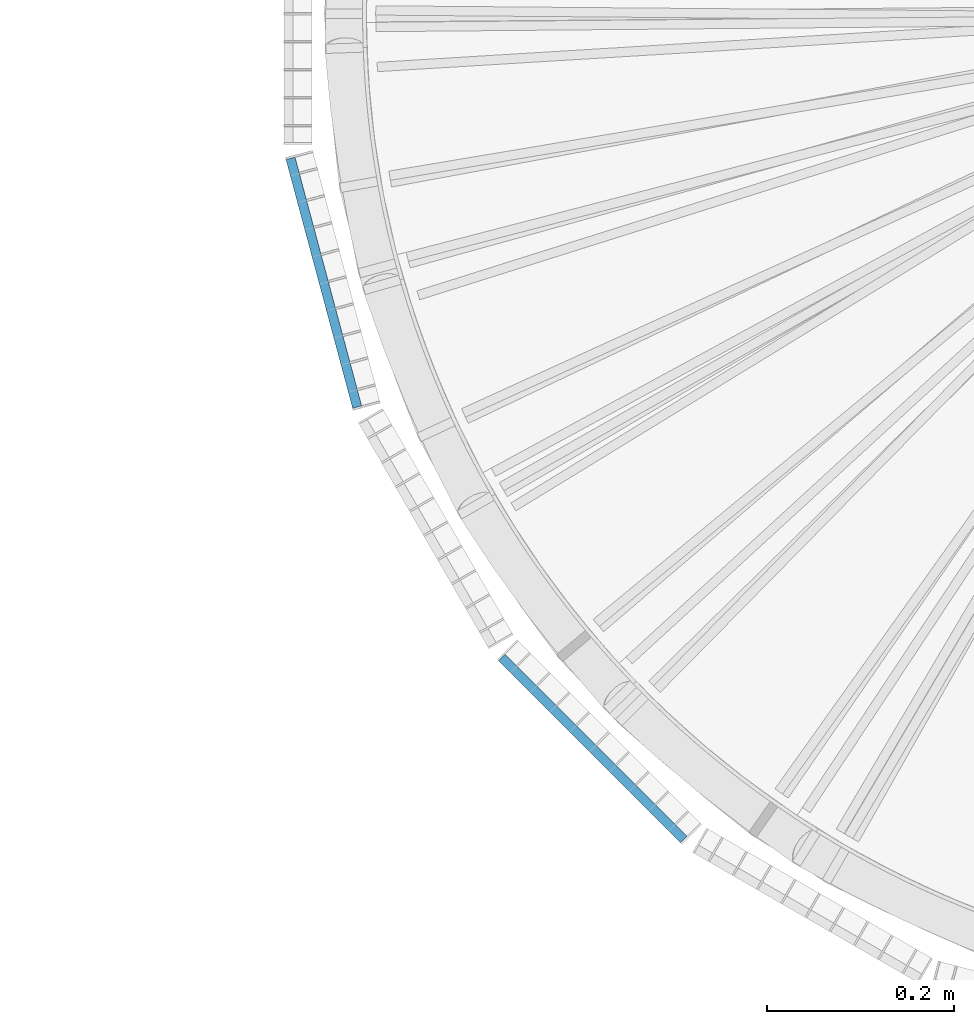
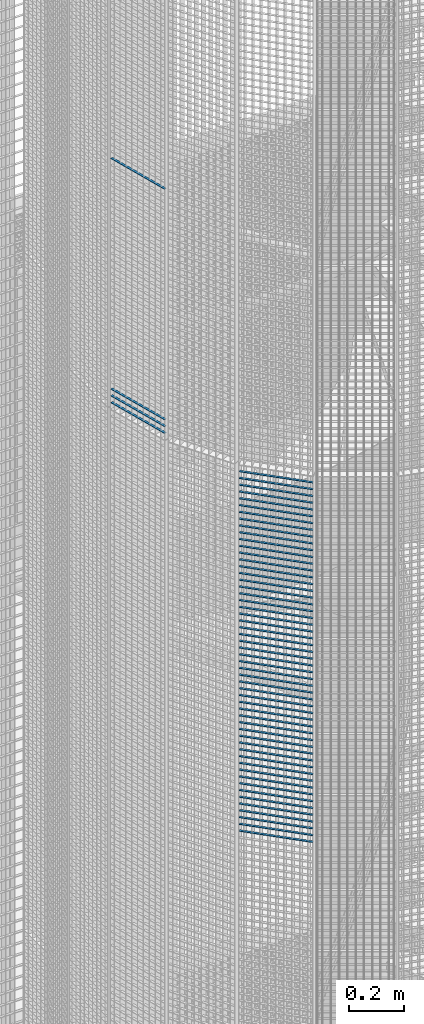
# One storey, part 109 of 1183: 58 beams, 2 elements without a shape of their own.
"""IFC2X3 building model written with IfcOpenShell, lengths in millimetres."""

from ifc_helpers import new_model, si_unit, frame, origin_with_axes, origin_2d_with_axis, place, context, subcontext, project, spatial, rectangle, extrude, material, type_object, element, aggregate, save


model = new_model("IFC2X3")

# Units and contexts
model_context = context("Model", 3, precision=1e-05, world=origin_with_axes())
body_context = subcontext(model_context, "Body", "Model", "MODEL_VIEW")
ifc_project = project(units=[si_unit("LENGTHUNIT", "METRE", prefix="MILLI"), si_unit("AREAUNIT", "SQUARE_METRE"), si_unit("VOLUMEUNIT", "CUBIC_METRE"), si_unit("MASSUNIT", "GRAM", prefix="KILO"), si_unit("TIMEUNIT", "SECOND"), si_unit("PLANEANGLEUNIT", "RADIAN"), si_unit("SOLIDANGLEUNIT", "STERADIAN"), si_unit("THERMODYNAMICTEMPERATUREUNIT", "DEGREE_CELSIUS"), si_unit("LUMINOUSINTENSITYUNIT", "LUMEN")], contexts=[model_context])

# Site, building, storey
site_placement = place(None, origin_with_axes())
site = spatial("IfcSite", under=ifc_project, at=site_placement, Name="Undefined", CompositionType="ELEMENT")
building_placement = place(site_placement, origin_with_axes())
building = spatial("IfcBuilding", under=site, at=building_placement, Name="Undefined", CompositionType="ELEMENT")
storey_placement = place(building_placement, origin_with_axes())
storey = spatial("IfcBuildingStorey", under=building, at=storey_placement, Name="Undefined", CompositionType="ELEMENT", Elevation=0.0)

# Assembly, beams
assembly_1_placement = place(storey_placement, origin_with_axes())
assembly_1 = element("IfcElementAssembly", 1, at=assembly_1_placement, inside=storey, Name="BORDURE", AssemblyPlace="NOTDEFINED", PredefinedType="NOTDEFINED")
ifc_material = material(Name="STEEL/S235JR")
beam_type = type_object("IfcBeamType", Name="PL2*10", PredefinedType="NOTDEFINED")
beam_1_placement = place(assembly_1_placement, frame((-1111.25508286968, -154.895926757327, 15090.0), z_axis=(-0.965925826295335, -0.258819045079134, 0.0), x_axis=(0.258819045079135, -0.965925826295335, 0.0)))
beam_1 = element("IfcBeam", 2, at=beam_1_placement, type_object=beam_type, material=ifc_material, Name="ENTRETOISE", context=body_context, shape_type="SweptSolid", body=[
    extrude(rectangle(XDim=2.0, YDim=10.0, at=origin_2d_with_axis()), frame((275.999999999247, 9.09494701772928e-13, 1.53210777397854e-14), z_axis=(-1.0, 0.0, 0.0), x_axis=(0.0, -1.0, 0.0)), (0.0, 0.0, 1.0), 276.0),
])
beam_2_placement = place(assembly_1_placement, frame((-1111.25508286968, -154.895926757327, 15060.0), z_axis=(-0.965925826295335, -0.258819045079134, 0.0), x_axis=(0.258819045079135, -0.965925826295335, 0.0)))
beam_2 = element("IfcBeam", 3, at=beam_2_placement, type_object=beam_type, material=ifc_material, Name="ENTRETOISE", context=body_context, shape_type="SweptSolid", body=[
    extrude(rectangle(XDim=2.0, YDim=10.0, at=origin_2d_with_axis()), frame((275.999999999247, 9.09494701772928e-13, 1.53210777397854e-14), z_axis=(-1.0, 0.0, 0.0), x_axis=(0.0, -1.0, 0.0)), (0.0, 0.0, 1.0), 276.0),
])
beam_3_placement = place(assembly_1_placement, frame((-1111.25508286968, -154.895926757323, 16110.0), z_axis=(-0.965925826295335, -0.258819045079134, 0.0), x_axis=(0.258819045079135, -0.965925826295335, 0.0)))
beam_3 = element("IfcBeam", 4, at=beam_3_placement, type_object=beam_type, material=ifc_material, Name="ENTRETOISE", context=body_context, shape_type="SweptSolid", body=[
    extrude(rectangle(XDim=2.0, YDim=10.0, at=origin_2d_with_axis()), frame((275.999999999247, 9.09494701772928e-13, 1.53210777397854e-14), z_axis=(-1.0, 0.0, 0.0), x_axis=(0.0, -1.0, 0.0)), (0.0, 0.0, 1.0), 276.0),
])
beam_4_placement = place(assembly_1_placement, frame((-1111.25508286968, -154.895926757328, 15030.0), z_axis=(-0.965925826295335, -0.258819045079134, 0.0), x_axis=(0.258819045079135, -0.965925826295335, 0.0)))
beam_4 = element("IfcBeam", 5, at=beam_4_placement, type_object=beam_type, material=ifc_material, Name="ENTRETOISE", context=body_context, shape_type="SweptSolid", body=[
    extrude(rectangle(XDim=2.0, YDim=10.0, at=origin_2d_with_axis()), frame((275.999999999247, 9.09494701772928e-13, 1.53210777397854e-14), z_axis=(-1.0, 0.0, 0.0), x_axis=(0.0, -1.0, 0.0)), (0.0, 0.0, 1.0), 276.0),
])
aggregate(assembly_1, [beam_1, beam_2, beam_3, beam_4])

assembly_2_placement = place(storey_placement, origin_with_axes())
assembly_2 = element("IfcElementAssembly", 6, at=assembly_2_placement, inside=storey, Name="BORDURE", AssemblyPlace="NOTDEFINED", PredefinedType="NOTDEFINED")
beam_5_placement = place(assembly_2_placement, frame((-884.927168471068, -689.771348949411, 14970.0), z_axis=(-0.70710678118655, -0.707106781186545, 0.0), x_axis=(0.707106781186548, -0.707106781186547, 0.0)))
beam_5 = element("IfcBeam", 7, at=beam_5_placement, type_object=beam_type, material=ifc_material, Name="ENTRETOISE", context=body_context, shape_type="SweptSolid", body=[
    extrude(rectangle(XDim=2.0, YDim=10.0, at=origin_2d_with_axis()), frame((275.999999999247, 9.09494701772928e-13, 1.53210777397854e-14), z_axis=(-1.0, 0.0, 0.0), x_axis=(0.0, -1.0, 0.0)), (0.0, 0.0, 1.0), 276.0),
])
beam_6_placement = place(assembly_2_placement, frame((-884.927168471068, -689.771348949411, 14940.0), z_axis=(-0.70710678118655, -0.707106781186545, 0.0), x_axis=(0.707106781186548, -0.707106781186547, 0.0)))
beam_6 = element("IfcBeam", 8, at=beam_6_placement, type_object=beam_type, material=ifc_material, Name="ENTRETOISE", context=body_context, shape_type="SweptSolid", body=[
    extrude(rectangle(XDim=2.0, YDim=10.0, at=origin_2d_with_axis()), frame((275.999999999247, 9.09494701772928e-13, 1.53210777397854e-14), z_axis=(-1.0, 0.0, 0.0), x_axis=(0.0, -1.0, 0.0)), (0.0, 0.0, 1.0), 276.0),
])
beam_7_placement = place(assembly_2_placement, frame((-884.927168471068, -689.771348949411, 14910.0), z_axis=(-0.70710678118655, -0.707106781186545, 0.0), x_axis=(0.707106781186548, -0.707106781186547, 0.0)))
beam_7 = element("IfcBeam", 9, at=beam_7_placement, type_object=beam_type, material=ifc_material, Name="ENTRETOISE", context=body_context, shape_type="SweptSolid", body=[
    extrude(rectangle(XDim=2.0, YDim=10.0, at=origin_2d_with_axis()), frame((275.999999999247, 9.09494701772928e-13, 1.53210777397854e-14), z_axis=(-1.0, 0.0, 0.0), x_axis=(0.0, -1.0, 0.0)), (0.0, 0.0, 1.0), 276.0),
])
beam_8_placement = place(assembly_2_placement, frame((-884.927168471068, -689.771348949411, 14880.0), z_axis=(-0.70710678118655, -0.707106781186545, 0.0), x_axis=(0.707106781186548, -0.707106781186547, 0.0)))
beam_8 = element("IfcBeam", 10, at=beam_8_placement, type_object=beam_type, material=ifc_material, Name="ENTRETOISE", context=body_context, shape_type="SweptSolid", body=[
    extrude(rectangle(XDim=2.0, YDim=10.0, at=origin_2d_with_axis()), frame((275.999999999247, 9.09494701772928e-13, 1.53210777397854e-14), z_axis=(-1.0, 0.0, 0.0), x_axis=(0.0, -1.0, 0.0)), (0.0, 0.0, 1.0), 276.0),
])
beam_9_placement = place(assembly_2_placement, frame((-884.927168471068, -689.771348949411, 14850.0), z_axis=(-0.70710678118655, -0.707106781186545, 0.0), x_axis=(0.707106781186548, -0.707106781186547, 0.0)))
beam_9 = element("IfcBeam", 11, at=beam_9_placement, type_object=beam_type, material=ifc_material, Name="ENTRETOISE", context=body_context, shape_type="SweptSolid", body=[
    extrude(rectangle(XDim=2.0, YDim=10.0, at=origin_2d_with_axis()), frame((275.999999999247, 9.09494701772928e-13, 1.53210777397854e-14), z_axis=(-1.0, 0.0, 0.0), x_axis=(0.0, -1.0, 0.0)), (0.0, 0.0, 1.0), 276.0),
])
beam_10_placement = place(assembly_2_placement, frame((-884.927168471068, -689.771348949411, 14820.0), z_axis=(-0.70710678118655, -0.707106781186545, 0.0), x_axis=(0.707106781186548, -0.707106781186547, 0.0)))
beam_10 = element("IfcBeam", 12, at=beam_10_placement, type_object=beam_type, material=ifc_material, Name="ENTRETOISE", context=body_context, shape_type="SweptSolid", body=[
    extrude(rectangle(XDim=2.0, YDim=10.0, at=origin_2d_with_axis()), frame((275.999999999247, 9.09494701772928e-13, 1.53210777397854e-14), z_axis=(-1.0, 0.0, 0.0), x_axis=(0.0, -1.0, 0.0)), (0.0, 0.0, 1.0), 276.0),
])
beam_11_placement = place(assembly_2_placement, frame((-884.927168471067, -689.771348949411, 14790.0), z_axis=(-0.70710678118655, -0.707106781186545, 0.0), x_axis=(0.707106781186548, -0.707106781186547, 0.0)))
beam_11 = element("IfcBeam", 13, at=beam_11_placement, type_object=beam_type, material=ifc_material, Name="ENTRETOISE", context=body_context, shape_type="SweptSolid", body=[
    extrude(rectangle(XDim=2.0, YDim=10.0, at=origin_2d_with_axis()), frame((275.999999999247, 9.09494701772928e-13, 1.53210777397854e-14), z_axis=(-1.0, 0.0, 0.0), x_axis=(0.0, -1.0, 0.0)), (0.0, 0.0, 1.0), 276.0),
])
beam_12_placement = place(assembly_2_placement, frame((-884.927168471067, -689.771348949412, 14760.0), z_axis=(-0.70710678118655, -0.707106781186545, 0.0), x_axis=(0.707106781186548, -0.707106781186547, 0.0)))
beam_12 = element("IfcBeam", 14, at=beam_12_placement, type_object=beam_type, material=ifc_material, Name="ENTRETOISE", context=body_context, shape_type="SweptSolid", body=[
    extrude(rectangle(XDim=2.0, YDim=10.0, at=origin_2d_with_axis()), frame((275.999999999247, 9.09494701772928e-13, 1.53210777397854e-14), z_axis=(-1.0, 0.0, 0.0), x_axis=(0.0, -1.0, 0.0)), (0.0, 0.0, 1.0), 276.0),
])
beam_13_placement = place(assembly_2_placement, frame((-884.927168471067, -689.771348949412, 14730.0), z_axis=(-0.70710678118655, -0.707106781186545, 0.0), x_axis=(0.707106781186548, -0.707106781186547, 0.0)))
beam_13 = element("IfcBeam", 15, at=beam_13_placement, type_object=beam_type, material=ifc_material, Name="ENTRETOISE", context=body_context, shape_type="SweptSolid", body=[
    extrude(rectangle(XDim=2.0, YDim=10.0, at=origin_2d_with_axis()), frame((275.999999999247, 9.09494701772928e-13, 1.53210777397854e-14), z_axis=(-1.0, 0.0, 0.0), x_axis=(0.0, -1.0, 0.0)), (0.0, 0.0, 1.0), 276.0),
])
beam_14_placement = place(assembly_2_placement, frame((-884.927168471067, -689.771348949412, 14700.0), z_axis=(-0.70710678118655, -0.707106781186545, 0.0), x_axis=(0.707106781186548, -0.707106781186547, 0.0)))
beam_14 = element("IfcBeam", 16, at=beam_14_placement, type_object=beam_type, material=ifc_material, Name="ENTRETOISE", context=body_context, shape_type="SweptSolid", body=[
    extrude(rectangle(XDim=2.0, YDim=10.0, at=origin_2d_with_axis()), frame((275.999999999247, 9.09494701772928e-13, 1.53210777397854e-14), z_axis=(-1.0, 0.0, 0.0), x_axis=(0.0, -1.0, 0.0)), (0.0, 0.0, 1.0), 276.0),
])
beam_15_placement = place(assembly_2_placement, frame((-884.927168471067, -689.771348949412, 14670.0), z_axis=(-0.70710678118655, -0.707106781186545, 0.0), x_axis=(0.707106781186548, -0.707106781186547, 0.0)))
beam_15 = element("IfcBeam", 17, at=beam_15_placement, type_object=beam_type, material=ifc_material, Name="ENTRETOISE", context=body_context, shape_type="SweptSolid", body=[
    extrude(rectangle(XDim=2.0, YDim=10.0, at=origin_2d_with_axis()), frame((275.999999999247, 9.09494701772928e-13, 1.53210777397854e-14), z_axis=(-1.0, 0.0, 0.0), x_axis=(0.0, -1.0, 0.0)), (0.0, 0.0, 1.0), 276.0),
])
beam_16_placement = place(assembly_2_placement, frame((-884.927168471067, -689.771348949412, 14640.0), z_axis=(-0.70710678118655, -0.707106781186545, 0.0), x_axis=(0.707106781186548, -0.707106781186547, 0.0)))
beam_16 = element("IfcBeam", 18, at=beam_16_placement, type_object=beam_type, material=ifc_material, Name="ENTRETOISE", context=body_context, shape_type="SweptSolid", body=[
    extrude(rectangle(XDim=2.0, YDim=10.0, at=origin_2d_with_axis()), frame((275.999999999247, 9.09494701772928e-13, 1.53210777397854e-14), z_axis=(-1.0, 0.0, 0.0), x_axis=(0.0, -1.0, 0.0)), (0.0, 0.0, 1.0), 276.0),
])
beam_17_placement = place(assembly_2_placement, frame((-884.927168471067, -689.771348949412, 14610.0), z_axis=(-0.70710678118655, -0.707106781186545, 0.0), x_axis=(0.707106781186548, -0.707106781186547, 0.0)))
beam_17 = element("IfcBeam", 19, at=beam_17_placement, type_object=beam_type, material=ifc_material, Name="ENTRETOISE", context=body_context, shape_type="SweptSolid", body=[
    extrude(rectangle(XDim=2.0, YDim=10.0, at=origin_2d_with_axis()), frame((275.999999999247, 9.09494701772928e-13, 1.53210777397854e-14), z_axis=(-1.0, 0.0, 0.0), x_axis=(0.0, -1.0, 0.0)), (0.0, 0.0, 1.0), 276.0),
])
beam_18_placement = place(assembly_2_placement, frame((-884.927168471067, -689.771348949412, 14580.0), z_axis=(-0.70710678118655, -0.707106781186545, 0.0), x_axis=(0.707106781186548, -0.707106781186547, 0.0)))
beam_18 = element("IfcBeam", 20, at=beam_18_placement, type_object=beam_type, material=ifc_material, Name="ENTRETOISE", context=body_context, shape_type="SweptSolid", body=[
    extrude(rectangle(XDim=2.0, YDim=10.0, at=origin_2d_with_axis()), frame((275.999999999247, 9.09494701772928e-13, 1.53210777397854e-14), z_axis=(-1.0, 0.0, 0.0), x_axis=(0.0, -1.0, 0.0)), (0.0, 0.0, 1.0), 276.0),
])
beam_19_placement = place(assembly_2_placement, frame((-884.927168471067, -689.771348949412, 14550.0), z_axis=(-0.70710678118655, -0.707106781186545, 0.0), x_axis=(0.707106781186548, -0.707106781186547, 0.0)))
beam_19 = element("IfcBeam", 21, at=beam_19_placement, type_object=beam_type, material=ifc_material, Name="ENTRETOISE", context=body_context, shape_type="SweptSolid", body=[
    extrude(rectangle(XDim=2.0, YDim=10.0, at=origin_2d_with_axis()), frame((275.999999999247, 9.09494701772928e-13, 1.53210777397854e-14), z_axis=(-1.0, 0.0, 0.0), x_axis=(0.0, -1.0, 0.0)), (0.0, 0.0, 1.0), 276.0),
])
beam_20_placement = place(assembly_2_placement, frame((-884.927168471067, -689.771348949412, 14520.0), z_axis=(-0.70710678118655, -0.707106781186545, 0.0), x_axis=(0.707106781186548, -0.707106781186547, 0.0)))
beam_20 = element("IfcBeam", 22, at=beam_20_placement, type_object=beam_type, material=ifc_material, Name="ENTRETOISE", context=body_context, shape_type="SweptSolid", body=[
    extrude(rectangle(XDim=2.0, YDim=10.0, at=origin_2d_with_axis()), frame((275.999999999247, 9.09494701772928e-13, 1.53210777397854e-14), z_axis=(-1.0, 0.0, 0.0), x_axis=(0.0, -1.0, 0.0)), (0.0, 0.0, 1.0), 276.0),
])
beam_21_placement = place(assembly_2_placement, frame((-884.927168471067, -689.771348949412, 14490.0), z_axis=(-0.70710678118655, -0.707106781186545, 0.0), x_axis=(0.707106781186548, -0.707106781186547, 0.0)))
beam_21 = element("IfcBeam", 23, at=beam_21_placement, type_object=beam_type, material=ifc_material, Name="ENTRETOISE", context=body_context, shape_type="SweptSolid", body=[
    extrude(rectangle(XDim=2.0, YDim=10.0, at=origin_2d_with_axis()), frame((275.999999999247, 9.09494701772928e-13, 1.53210777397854e-14), z_axis=(-1.0, 0.0, 0.0), x_axis=(0.0, -1.0, 0.0)), (0.0, 0.0, 1.0), 276.0),
])
beam_22_placement = place(assembly_2_placement, frame((-884.927168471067, -689.771348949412, 14460.0), z_axis=(-0.70710678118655, -0.707106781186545, 0.0), x_axis=(0.707106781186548, -0.707106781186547, 0.0)))
beam_22 = element("IfcBeam", 24, at=beam_22_placement, type_object=beam_type, material=ifc_material, Name="ENTRETOISE", context=body_context, shape_type="SweptSolid", body=[
    extrude(rectangle(XDim=2.0, YDim=10.0, at=origin_2d_with_axis()), frame((275.999999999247, 9.09494701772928e-13, 1.53210777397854e-14), z_axis=(-1.0, 0.0, 0.0), x_axis=(0.0, -1.0, 0.0)), (0.0, 0.0, 1.0), 276.0),
])
beam_23_placement = place(assembly_2_placement, frame((-884.927168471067, -689.771348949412, 14430.0), z_axis=(-0.70710678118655, -0.707106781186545, 0.0), x_axis=(0.707106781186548, -0.707106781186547, 0.0)))
beam_23 = element("IfcBeam", 25, at=beam_23_placement, type_object=beam_type, material=ifc_material, Name="ENTRETOISE", context=body_context, shape_type="SweptSolid", body=[
    extrude(rectangle(XDim=2.0, YDim=10.0, at=origin_2d_with_axis()), frame((275.999999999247, 9.09494701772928e-13, 1.53210777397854e-14), z_axis=(-1.0, 0.0, 0.0), x_axis=(0.0, -1.0, 0.0)), (0.0, 0.0, 1.0), 276.0),
])
beam_24_placement = place(assembly_2_placement, frame((-884.927168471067, -689.771348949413, 14400.0), z_axis=(-0.70710678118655, -0.707106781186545, 0.0), x_axis=(0.707106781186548, -0.707106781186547, 0.0)))
beam_24 = element("IfcBeam", 26, at=beam_24_placement, type_object=beam_type, material=ifc_material, Name="ENTRETOISE", context=body_context, shape_type="SweptSolid", body=[
    extrude(rectangle(XDim=2.0, YDim=10.0, at=origin_2d_with_axis()), frame((275.999999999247, 9.09494701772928e-13, 1.53210777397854e-14), z_axis=(-1.0, 0.0, 0.0), x_axis=(0.0, -1.0, 0.0)), (0.0, 0.0, 1.0), 276.0),
])
beam_25_placement = place(assembly_2_placement, frame((-884.927168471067, -689.771348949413, 14370.0), z_axis=(-0.70710678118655, -0.707106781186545, 0.0), x_axis=(0.707106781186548, -0.707106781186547, 0.0)))
beam_25 = element("IfcBeam", 27, at=beam_25_placement, type_object=beam_type, material=ifc_material, Name="ENTRETOISE", context=body_context, shape_type="SweptSolid", body=[
    extrude(rectangle(XDim=2.0, YDim=10.0, at=origin_2d_with_axis()), frame((275.999999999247, 9.09494701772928e-13, 1.53210777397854e-14), z_axis=(-1.0, 0.0, 0.0), x_axis=(0.0, -1.0, 0.0)), (0.0, 0.0, 1.0), 276.0),
])
beam_26_placement = place(assembly_2_placement, frame((-884.927168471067, -689.771348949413, 14340.0), z_axis=(-0.70710678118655, -0.707106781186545, 0.0), x_axis=(0.707106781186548, -0.707106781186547, 0.0)))
beam_26 = element("IfcBeam", 28, at=beam_26_placement, type_object=beam_type, material=ifc_material, Name="ENTRETOISE", context=body_context, shape_type="SweptSolid", body=[
    extrude(rectangle(XDim=2.0, YDim=10.0, at=origin_2d_with_axis()), frame((275.999999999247, 9.09494701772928e-13, 1.53210777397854e-14), z_axis=(-1.0, 0.0, 0.0), x_axis=(0.0, -1.0, 0.0)), (0.0, 0.0, 1.0), 276.0),
])
beam_27_placement = place(assembly_2_placement, frame((-884.927168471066, -689.771348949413, 14310.0), z_axis=(-0.70710678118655, -0.707106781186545, 0.0), x_axis=(0.707106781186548, -0.707106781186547, 0.0)))
beam_27 = element("IfcBeam", 29, at=beam_27_placement, type_object=beam_type, material=ifc_material, Name="ENTRETOISE", context=body_context, shape_type="SweptSolid", body=[
    extrude(rectangle(XDim=2.0, YDim=10.0, at=origin_2d_with_axis()), frame((275.999999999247, 9.09494701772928e-13, 1.53210777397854e-14), z_axis=(-1.0, 0.0, 0.0), x_axis=(0.0, -1.0, 0.0)), (0.0, 0.0, 1.0), 276.0),
])
beam_28_placement = place(assembly_2_placement, frame((-884.927168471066, -689.771348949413, 14280.0), z_axis=(-0.70710678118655, -0.707106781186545, 0.0), x_axis=(0.707106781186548, -0.707106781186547, 0.0)))
beam_28 = element("IfcBeam", 30, at=beam_28_placement, type_object=beam_type, material=ifc_material, Name="ENTRETOISE", context=body_context, shape_type="SweptSolid", body=[
    extrude(rectangle(XDim=2.0, YDim=10.0, at=origin_2d_with_axis()), frame((275.999999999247, 9.09494701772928e-13, 1.53210777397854e-14), z_axis=(-1.0, 0.0, 0.0), x_axis=(0.0, -1.0, 0.0)), (0.0, 0.0, 1.0), 276.0),
])
beam_29_placement = place(assembly_2_placement, frame((-884.927168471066, -689.771348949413, 14250.0), z_axis=(-0.70710678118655, -0.707106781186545, 0.0), x_axis=(0.707106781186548, -0.707106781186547, 0.0)))
beam_29 = element("IfcBeam", 31, at=beam_29_placement, type_object=beam_type, material=ifc_material, Name="ENTRETOISE", context=body_context, shape_type="SweptSolid", body=[
    extrude(rectangle(XDim=2.0, YDim=10.0, at=origin_2d_with_axis()), frame((275.999999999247, 9.09494701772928e-13, 1.53210777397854e-14), z_axis=(-1.0, 0.0, 0.0), x_axis=(0.0, -1.0, 0.0)), (0.0, 0.0, 1.0), 276.0),
])
beam_30_placement = place(assembly_2_placement, frame((-884.927168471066, -689.771348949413, 14220.0), z_axis=(-0.70710678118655, -0.707106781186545, 0.0), x_axis=(0.707106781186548, -0.707106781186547, 0.0)))
beam_30 = element("IfcBeam", 32, at=beam_30_placement, type_object=beam_type, material=ifc_material, Name="ENTRETOISE", context=body_context, shape_type="SweptSolid", body=[
    extrude(rectangle(XDim=2.0, YDim=10.0, at=origin_2d_with_axis()), frame((275.999999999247, 9.09494701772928e-13, 1.53210777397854e-14), z_axis=(-1.0, 0.0, 0.0), x_axis=(0.0, -1.0, 0.0)), (0.0, 0.0, 1.0), 276.0),
])
beam_31_placement = place(assembly_2_placement, frame((-884.927168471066, -689.771348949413, 14190.0), z_axis=(-0.70710678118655, -0.707106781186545, 0.0), x_axis=(0.707106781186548, -0.707106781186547, 0.0)))
beam_31 = element("IfcBeam", 33, at=beam_31_placement, type_object=beam_type, material=ifc_material, Name="ENTRETOISE", context=body_context, shape_type="SweptSolid", body=[
    extrude(rectangle(XDim=2.0, YDim=10.0, at=origin_2d_with_axis()), frame((275.999999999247, 9.09494701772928e-13, 1.53210777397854e-14), z_axis=(-1.0, 0.0, 0.0), x_axis=(0.0, -1.0, 0.0)), (0.0, 0.0, 1.0), 276.0),
])
beam_32_placement = place(assembly_2_placement, frame((-884.927168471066, -689.771348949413, 14160.0), z_axis=(-0.70710678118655, -0.707106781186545, 0.0), x_axis=(0.707106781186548, -0.707106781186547, 0.0)))
beam_32 = element("IfcBeam", 34, at=beam_32_placement, type_object=beam_type, material=ifc_material, Name="ENTRETOISE", context=body_context, shape_type="SweptSolid", body=[
    extrude(rectangle(XDim=2.0, YDim=10.0, at=origin_2d_with_axis()), frame((275.999999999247, 9.09494701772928e-13, 1.53210777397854e-14), z_axis=(-1.0, 0.0, 0.0), x_axis=(0.0, -1.0, 0.0)), (0.0, 0.0, 1.0), 276.0),
])
beam_33_placement = place(assembly_2_placement, frame((-884.927168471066, -689.771348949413, 14130.0), z_axis=(-0.70710678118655, -0.707106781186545, 0.0), x_axis=(0.707106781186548, -0.707106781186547, 0.0)))
beam_33 = element("IfcBeam", 35, at=beam_33_placement, type_object=beam_type, material=ifc_material, Name="ENTRETOISE", context=body_context, shape_type="SweptSolid", body=[
    extrude(rectangle(XDim=2.0, YDim=10.0, at=origin_2d_with_axis()), frame((275.999999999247, 9.09494701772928e-13, 1.53210777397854e-14), z_axis=(-1.0, 0.0, 0.0), x_axis=(0.0, -1.0, 0.0)), (0.0, 0.0, 1.0), 276.0),
])
beam_34_placement = place(assembly_2_placement, frame((-884.927168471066, -689.771348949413, 14100.0), z_axis=(-0.70710678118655, -0.707106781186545, 0.0), x_axis=(0.707106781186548, -0.707106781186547, 0.0)))
beam_34 = element("IfcBeam", 36, at=beam_34_placement, type_object=beam_type, material=ifc_material, Name="ENTRETOISE", context=body_context, shape_type="SweptSolid", body=[
    extrude(rectangle(XDim=2.0, YDim=10.0, at=origin_2d_with_axis()), frame((275.999999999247, 9.09494701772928e-13, 1.53210777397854e-14), z_axis=(-1.0, 0.0, 0.0), x_axis=(0.0, -1.0, 0.0)), (0.0, 0.0, 1.0), 276.0),
])
beam_35_placement = place(assembly_2_placement, frame((-884.927168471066, -689.771348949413, 14070.0), z_axis=(-0.70710678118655, -0.707106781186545, 0.0), x_axis=(0.707106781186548, -0.707106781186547, 0.0)))
beam_35 = element("IfcBeam", 37, at=beam_35_placement, type_object=beam_type, material=ifc_material, Name="ENTRETOISE", context=body_context, shape_type="SweptSolid", body=[
    extrude(rectangle(XDim=2.0, YDim=10.0, at=origin_2d_with_axis()), frame((275.999999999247, 9.09494701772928e-13, 1.53210777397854e-14), z_axis=(-1.0, 0.0, 0.0), x_axis=(0.0, -1.0, 0.0)), (0.0, 0.0, 1.0), 276.0),
])
beam_36_placement = place(assembly_2_placement, frame((-884.927168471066, -689.771348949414, 14040.0), z_axis=(-0.70710678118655, -0.707106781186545, 0.0), x_axis=(0.707106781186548, -0.707106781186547, 0.0)))
beam_36 = element("IfcBeam", 38, at=beam_36_placement, type_object=beam_type, material=ifc_material, Name="ENTRETOISE", context=body_context, shape_type="SweptSolid", body=[
    extrude(rectangle(XDim=2.0, YDim=10.0, at=origin_2d_with_axis()), frame((275.999999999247, 9.09494701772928e-13, 1.53210777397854e-14), z_axis=(-1.0, 0.0, 0.0), x_axis=(0.0, -1.0, 0.0)), (0.0, 0.0, 1.0), 276.0),
])
beam_37_placement = place(assembly_2_placement, frame((-884.927168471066, -689.771348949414, 14010.0), z_axis=(-0.70710678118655, -0.707106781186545, 0.0), x_axis=(0.707106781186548, -0.707106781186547, 0.0)))
beam_37 = element("IfcBeam", 39, at=beam_37_placement, type_object=beam_type, material=ifc_material, Name="ENTRETOISE", context=body_context, shape_type="SweptSolid", body=[
    extrude(rectangle(XDim=2.0, YDim=10.0, at=origin_2d_with_axis()), frame((275.999999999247, 9.09494701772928e-13, 1.53210777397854e-14), z_axis=(-1.0, 0.0, 0.0), x_axis=(0.0, -1.0, 0.0)), (0.0, 0.0, 1.0), 276.0),
])
beam_38_placement = place(assembly_2_placement, frame((-884.927168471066, -689.771348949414, 13980.0), z_axis=(-0.70710678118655, -0.707106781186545, 0.0), x_axis=(0.707106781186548, -0.707106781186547, 0.0)))
beam_38 = element("IfcBeam", 40, at=beam_38_placement, type_object=beam_type, material=ifc_material, Name="ENTRETOISE", context=body_context, shape_type="SweptSolid", body=[
    extrude(rectangle(XDim=2.0, YDim=10.0, at=origin_2d_with_axis()), frame((275.999999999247, 9.09494701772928e-13, 1.53210777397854e-14), z_axis=(-1.0, 0.0, 0.0), x_axis=(0.0, -1.0, 0.0)), (0.0, 0.0, 1.0), 276.0),
])
beam_39_placement = place(assembly_2_placement, frame((-884.927168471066, -689.771348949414, 13950.0), z_axis=(-0.70710678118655, -0.707106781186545, 0.0), x_axis=(0.707106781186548, -0.707106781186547, 0.0)))
beam_39 = element("IfcBeam", 41, at=beam_39_placement, type_object=beam_type, material=ifc_material, Name="ENTRETOISE", context=body_context, shape_type="SweptSolid", body=[
    extrude(rectangle(XDim=2.0, YDim=10.0, at=origin_2d_with_axis()), frame((275.999999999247, 9.09494701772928e-13, 1.53210777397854e-14), z_axis=(-1.0, 0.0, 0.0), x_axis=(0.0, -1.0, 0.0)), (0.0, 0.0, 1.0), 276.0),
])
beam_40_placement = place(assembly_2_placement, frame((-884.927168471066, -689.771348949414, 13920.0), z_axis=(-0.70710678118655, -0.707106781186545, 0.0), x_axis=(0.707106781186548, -0.707106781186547, 0.0)))
beam_40 = element("IfcBeam", 42, at=beam_40_placement, type_object=beam_type, material=ifc_material, Name="ENTRETOISE", context=body_context, shape_type="SweptSolid", body=[
    extrude(rectangle(XDim=2.0, YDim=10.0, at=origin_2d_with_axis()), frame((275.999999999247, 9.09494701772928e-13, 1.53210777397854e-14), z_axis=(-1.0, 0.0, 0.0), x_axis=(0.0, -1.0, 0.0)), (0.0, 0.0, 1.0), 276.0),
])
beam_41_placement = place(assembly_2_placement, frame((-884.927168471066, -689.771348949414, 13890.0), z_axis=(-0.70710678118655, -0.707106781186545, 0.0), x_axis=(0.707106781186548, -0.707106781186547, 0.0)))
beam_41 = element("IfcBeam", 43, at=beam_41_placement, type_object=beam_type, material=ifc_material, Name="ENTRETOISE", context=body_context, shape_type="SweptSolid", body=[
    extrude(rectangle(XDim=2.0, YDim=10.0, at=origin_2d_with_axis()), frame((275.999999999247, 9.09494701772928e-13, 1.53210777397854e-14), z_axis=(-1.0, 0.0, 0.0), x_axis=(0.0, -1.0, 0.0)), (0.0, 0.0, 1.0), 276.0),
])
beam_42_placement = place(assembly_2_placement, frame((-884.927168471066, -689.771348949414, 13860.0), z_axis=(-0.70710678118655, -0.707106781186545, 0.0), x_axis=(0.707106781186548, -0.707106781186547, 0.0)))
beam_42 = element("IfcBeam", 44, at=beam_42_placement, type_object=beam_type, material=ifc_material, Name="ENTRETOISE", context=body_context, shape_type="SweptSolid", body=[
    extrude(rectangle(XDim=2.0, YDim=10.0, at=origin_2d_with_axis()), frame((275.999999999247, 9.09494701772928e-13, 1.53210777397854e-14), z_axis=(-1.0, 0.0, 0.0), x_axis=(0.0, -1.0, 0.0)), (0.0, 0.0, 1.0), 276.0),
])
beam_43_placement = place(assembly_2_placement, frame((-884.927168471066, -689.771348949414, 13830.0), z_axis=(-0.70710678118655, -0.707106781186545, 0.0), x_axis=(0.707106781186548, -0.707106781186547, 0.0)))
beam_43 = element("IfcBeam", 45, at=beam_43_placement, type_object=beam_type, material=ifc_material, Name="ENTRETOISE", context=body_context, shape_type="SweptSolid", body=[
    extrude(rectangle(XDim=2.0, YDim=10.0, at=origin_2d_with_axis()), frame((275.999999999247, 9.09494701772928e-13, 1.53210777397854e-14), z_axis=(-1.0, 0.0, 0.0), x_axis=(0.0, -1.0, 0.0)), (0.0, 0.0, 1.0), 276.0),
])
beam_44_placement = place(assembly_2_placement, frame((-884.927168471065, -689.771348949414, 13800.0), z_axis=(-0.70710678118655, -0.707106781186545, 0.0), x_axis=(0.707106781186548, -0.707106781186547, 0.0)))
beam_44 = element("IfcBeam", 46, at=beam_44_placement, type_object=beam_type, material=ifc_material, Name="ENTRETOISE", context=body_context, shape_type="SweptSolid", body=[
    extrude(rectangle(XDim=2.0, YDim=10.0, at=origin_2d_with_axis()), frame((275.999999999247, 9.09494701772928e-13, 1.53210777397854e-14), z_axis=(-1.0, 0.0, 0.0), x_axis=(0.0, -1.0, 0.0)), (0.0, 0.0, 1.0), 276.0),
])
beam_45_placement = place(assembly_2_placement, frame((-884.927168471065, -689.771348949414, 13770.0), z_axis=(-0.70710678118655, -0.707106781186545, 0.0), x_axis=(0.707106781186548, -0.707106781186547, 0.0)))
beam_45 = element("IfcBeam", 47, at=beam_45_placement, type_object=beam_type, material=ifc_material, Name="ENTRETOISE", context=body_context, shape_type="SweptSolid", body=[
    extrude(rectangle(XDim=2.0, YDim=10.0, at=origin_2d_with_axis()), frame((275.999999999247, 9.09494701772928e-13, 1.53210777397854e-14), z_axis=(-1.0, 0.0, 0.0), x_axis=(0.0, -1.0, 0.0)), (0.0, 0.0, 1.0), 276.0),
])
beam_46_placement = place(assembly_2_placement, frame((-884.927168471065, -689.771348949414, 13740.0), z_axis=(-0.70710678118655, -0.707106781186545, 0.0), x_axis=(0.707106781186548, -0.707106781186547, 0.0)))
beam_46 = element("IfcBeam", 48, at=beam_46_placement, type_object=beam_type, material=ifc_material, Name="ENTRETOISE", context=body_context, shape_type="SweptSolid", body=[
    extrude(rectangle(XDim=2.0, YDim=10.0, at=origin_2d_with_axis()), frame((275.999999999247, 9.09494701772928e-13, 1.53210777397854e-14), z_axis=(-1.0, 0.0, 0.0), x_axis=(0.0, -1.0, 0.0)), (0.0, 0.0, 1.0), 276.0),
])
beam_47_placement = place(assembly_2_placement, frame((-884.927168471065, -689.771348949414, 13710.0), z_axis=(-0.70710678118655, -0.707106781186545, 0.0), x_axis=(0.707106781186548, -0.707106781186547, 0.0)))
beam_47 = element("IfcBeam", 49, at=beam_47_placement, type_object=beam_type, material=ifc_material, Name="ENTRETOISE", context=body_context, shape_type="SweptSolid", body=[
    extrude(rectangle(XDim=2.0, YDim=10.0, at=origin_2d_with_axis()), frame((275.999999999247, 9.09494701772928e-13, 1.53210777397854e-14), z_axis=(-1.0, 0.0, 0.0), x_axis=(0.0, -1.0, 0.0)), (0.0, 0.0, 1.0), 276.0),
])
beam_48_placement = place(assembly_2_placement, frame((-884.927168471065, -689.771348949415, 13680.0), z_axis=(-0.70710678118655, -0.707106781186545, 0.0), x_axis=(0.707106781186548, -0.707106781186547, 0.0)))
beam_48 = element("IfcBeam", 50, at=beam_48_placement, type_object=beam_type, material=ifc_material, Name="ENTRETOISE", context=body_context, shape_type="SweptSolid", body=[
    extrude(rectangle(XDim=2.0, YDim=10.0, at=origin_2d_with_axis()), frame((275.999999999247, 9.09494701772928e-13, 1.53210777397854e-14), z_axis=(-1.0, 0.0, 0.0), x_axis=(0.0, -1.0, 0.0)), (0.0, 0.0, 1.0), 276.0),
])
beam_49_placement = place(assembly_2_placement, frame((-884.927168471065, -689.771348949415, 13650.0), z_axis=(-0.70710678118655, -0.707106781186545, 0.0), x_axis=(0.707106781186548, -0.707106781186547, 0.0)))
beam_49 = element("IfcBeam", 51, at=beam_49_placement, type_object=beam_type, material=ifc_material, Name="ENTRETOISE", context=body_context, shape_type="SweptSolid", body=[
    extrude(rectangle(XDim=2.0, YDim=10.0, at=origin_2d_with_axis()), frame((275.999999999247, 9.09494701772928e-13, 1.53210777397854e-14), z_axis=(-1.0, 0.0, 0.0), x_axis=(0.0, -1.0, 0.0)), (0.0, 0.0, 1.0), 276.0),
])
beam_50_placement = place(assembly_2_placement, frame((-884.927168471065, -689.771348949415, 13620.0), z_axis=(-0.70710678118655, -0.707106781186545, 0.0), x_axis=(0.707106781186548, -0.707106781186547, 0.0)))
beam_50 = element("IfcBeam", 52, at=beam_50_placement, type_object=beam_type, material=ifc_material, Name="ENTRETOISE", context=body_context, shape_type="SweptSolid", body=[
    extrude(rectangle(XDim=2.0, YDim=10.0, at=origin_2d_with_axis()), frame((275.999999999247, 9.09494701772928e-13, 1.53210777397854e-14), z_axis=(-1.0, 0.0, 0.0), x_axis=(0.0, -1.0, 0.0)), (0.0, 0.0, 1.0), 276.0),
])
beam_51_placement = place(assembly_2_placement, frame((-884.927168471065, -689.771348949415, 13590.0), z_axis=(-0.70710678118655, -0.707106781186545, 0.0), x_axis=(0.707106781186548, -0.707106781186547, 0.0)))
beam_51 = element("IfcBeam", 53, at=beam_51_placement, type_object=beam_type, material=ifc_material, Name="ENTRETOISE", context=body_context, shape_type="SweptSolid", body=[
    extrude(rectangle(XDim=2.0, YDim=10.0, at=origin_2d_with_axis()), frame((275.999999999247, 9.09494701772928e-13, 1.53210777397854e-14), z_axis=(-1.0, 0.0, 0.0), x_axis=(0.0, -1.0, 0.0)), (0.0, 0.0, 1.0), 276.0),
])
beam_52_placement = place(assembly_2_placement, frame((-884.927168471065, -689.771348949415, 13560.0), z_axis=(-0.70710678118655, -0.707106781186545, 0.0), x_axis=(0.707106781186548, -0.707106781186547, 0.0)))
beam_52 = element("IfcBeam", 54, at=beam_52_placement, type_object=beam_type, material=ifc_material, Name="ENTRETOISE", context=body_context, shape_type="SweptSolid", body=[
    extrude(rectangle(XDim=2.0, YDim=10.0, at=origin_2d_with_axis()), frame((275.999999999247, 9.09494701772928e-13, 1.53210777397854e-14), z_axis=(-1.0, 0.0, 0.0), x_axis=(0.0, -1.0, 0.0)), (0.0, 0.0, 1.0), 276.0),
])
beam_53_placement = place(assembly_2_placement, frame((-884.927168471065, -689.771348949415, 13530.0), z_axis=(-0.70710678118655, -0.707106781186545, 0.0), x_axis=(0.707106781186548, -0.707106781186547, 0.0)))
beam_53 = element("IfcBeam", 55, at=beam_53_placement, type_object=beam_type, material=ifc_material, Name="ENTRETOISE", context=body_context, shape_type="SweptSolid", body=[
    extrude(rectangle(XDim=2.0, YDim=10.0, at=origin_2d_with_axis()), frame((275.999999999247, 9.09494701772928e-13, 1.53210777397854e-14), z_axis=(-1.0, 0.0, 0.0), x_axis=(0.0, -1.0, 0.0)), (0.0, 0.0, 1.0), 276.0),
])
beam_54_placement = place(assembly_2_placement, frame((-884.927168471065, -689.771348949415, 13500.0), z_axis=(-0.70710678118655, -0.707106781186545, 0.0), x_axis=(0.707106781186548, -0.707106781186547, 0.0)))
beam_54 = element("IfcBeam", 56, at=beam_54_placement, type_object=beam_type, material=ifc_material, Name="ENTRETOISE", context=body_context, shape_type="SweptSolid", body=[
    extrude(rectangle(XDim=2.0, YDim=10.0, at=origin_2d_with_axis()), frame((275.999999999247, 9.09494701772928e-13, 1.53210777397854e-14), z_axis=(-1.0, 0.0, 0.0), x_axis=(0.0, -1.0, 0.0)), (0.0, 0.0, 1.0), 276.0),
])
beam_55_placement = place(assembly_2_placement, frame((-884.927168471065, -689.771348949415, 13470.0), z_axis=(-0.70710678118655, -0.707106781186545, 0.0), x_axis=(0.707106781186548, -0.707106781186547, 0.0)))
beam_55 = element("IfcBeam", 57, at=beam_55_placement, type_object=beam_type, material=ifc_material, Name="ENTRETOISE", context=body_context, shape_type="SweptSolid", body=[
    extrude(rectangle(XDim=2.0, YDim=10.0, at=origin_2d_with_axis()), frame((275.999999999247, 9.09494701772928e-13, 1.53210777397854e-14), z_axis=(-1.0, 0.0, 0.0), x_axis=(0.0, -1.0, 0.0)), (0.0, 0.0, 1.0), 276.0),
])
beam_56_placement = place(assembly_2_placement, frame((-884.927168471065, -689.771348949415, 13440.0), z_axis=(-0.70710678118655, -0.707106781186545, 0.0), x_axis=(0.707106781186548, -0.707106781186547, 0.0)))
beam_56 = element("IfcBeam", 58, at=beam_56_placement, type_object=beam_type, material=ifc_material, Name="ENTRETOISE", context=body_context, shape_type="SweptSolid", body=[
    extrude(rectangle(XDim=2.0, YDim=10.0, at=origin_2d_with_axis()), frame((275.999999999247, 9.09494701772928e-13, 1.53210777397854e-14), z_axis=(-1.0, 0.0, 0.0), x_axis=(0.0, -1.0, 0.0)), (0.0, 0.0, 1.0), 276.0),
])
beam_57_placement = place(assembly_2_placement, frame((-884.927168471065, -689.771348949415, 13410.0), z_axis=(-0.70710678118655, -0.707106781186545, 0.0), x_axis=(0.707106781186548, -0.707106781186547, 0.0)))
beam_57 = element("IfcBeam", 59, at=beam_57_placement, type_object=beam_type, material=ifc_material, Name="ENTRETOISE", context=body_context, shape_type="SweptSolid", body=[
    extrude(rectangle(XDim=2.0, YDim=10.0, at=origin_2d_with_axis()), frame((275.999999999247, 9.09494701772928e-13, 1.53210777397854e-14), z_axis=(-1.0, 0.0, 0.0), x_axis=(0.0, -1.0, 0.0)), (0.0, 0.0, 1.0), 276.0),
])
beam_58_placement = place(assembly_2_placement, frame((-884.927168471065, -689.771348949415, 13380.0), z_axis=(-0.70710678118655, -0.707106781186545, 0.0), x_axis=(0.707106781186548, -0.707106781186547, 0.0)))
beam_58 = element("IfcBeam", 60, at=beam_58_placement, type_object=beam_type, material=ifc_material, Name="ENTRETOISE", context=body_context, shape_type="SweptSolid", body=[
    extrude(rectangle(XDim=2.0, YDim=10.0, at=origin_2d_with_axis()), frame((275.999999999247, 9.09494701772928e-13, 1.53210777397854e-14), z_axis=(-1.0, 0.0, 0.0), x_axis=(0.0, -1.0, 0.0)), (0.0, 0.0, 1.0), 276.0),
])
aggregate(assembly_2, [beam_5, beam_6, beam_7, beam_8, beam_9, beam_10, beam_11, beam_12, beam_13, beam_14, beam_15, beam_16, beam_17, beam_18, beam_19, beam_20, beam_21, beam_22, beam_23, beam_24, beam_25, beam_26, beam_27, beam_28, beam_29, beam_30, beam_31, beam_32, beam_33, beam_34, beam_35, beam_36, beam_37, beam_38, beam_39, beam_40, beam_41, beam_42, beam_43, beam_44, beam_45, beam_46, beam_47, beam_48, beam_49, beam_50, beam_51, beam_52, beam_53, beam_54, beam_55, beam_56, beam_57, beam_58])

save(model, "model.ifc")
